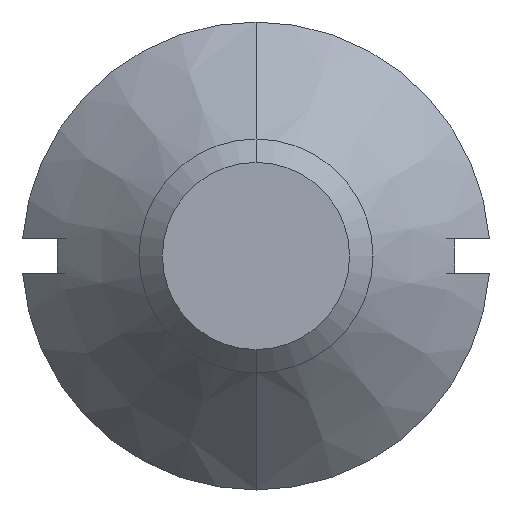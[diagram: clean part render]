
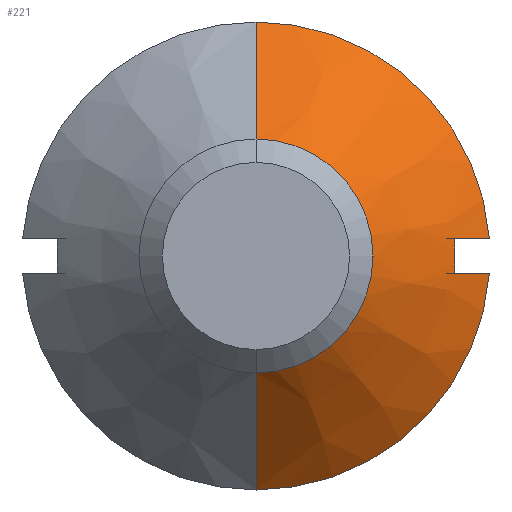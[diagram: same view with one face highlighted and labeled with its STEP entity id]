
A CAD part, front view. The second image highlights one B-rep face of the part: STEP entity #221.
In plain terms, the highlighted conical face has half-angle 45 degrees and reference radius 2 mm.
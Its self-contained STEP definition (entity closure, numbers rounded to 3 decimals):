
#4 = VERTEX_POINT ( 'NONE', #268 ) ;
#6 = VERTEX_POINT ( 'NONE', #261 ) ;
#8 = VERTEX_POINT ( 'NONE', #256 ) ;
#14 = VERTEX_POINT ( 'NONE', #255 ) ;
#18 = ORIENTED_EDGE ( 'NONE', *, *, #180, .T. ) ;
#31 = VERTEX_POINT ( 'NONE', #265 ) ;
#33 = VERTEX_POINT ( 'NONE', #245 ) ;
#34 = VERTEX_POINT ( 'NONE', #271 ) ;
#35 = VERTEX_POINT ( 'NONE', #247 ) ;
#37 = ORIENTED_EDGE ( 'NONE', *, *, #162, .T. ) ;
#46 = ORIENTED_EDGE ( 'NONE', *, *, #175, .F. ) ;
#52 = ORIENTED_EDGE ( 'NONE', *, *, #150, .F. ) ;
#56 = ORIENTED_EDGE ( 'NONE', *, *, #156, .T. ) ;
#60 = ORIENTED_EDGE ( 'NONE', *, *, #153, .T. ) ;
#71 = ORIENTED_EDGE ( 'NONE', *, *, #189, .T. ) ;
#73 = EDGE_LOOP ( 'NONE', ( #76, #18, #37, #71, #52, #56, #60, #46 ) ) ;
#76 = ORIENTED_EDGE ( 'NONE', *, *, #149, .F. ) ;
#87 = FACE_OUTER_BOUND ( 'NONE', #73, .T. ) ;
#88 = LINE ( 'NONE', #303, #98 ) ;
#95 = LINE ( 'NONE', #273, #122 ) ;
#98 = VECTOR ( 'NONE', #308, 1000. ) ;
#110 = CIRCLE ( 'NONE', #166, 1. ) ;
#116 = CIRCLE ( 'NONE', #178, 1.7 ) ;
#118 = CIRCLE ( 'NONE', #168, 2. ) ;
#122 = VECTOR ( 'NONE', #312, 1000. ) ;
#130 = CONICAL_SURFACE ( 'NONE', #195, 2., 0.785 ) ;
#133 = CIRCLE ( 'NONE', #159, 2. ) ;
#141 = B_SPLINE_CURVE_WITH_KNOTS ( 'NONE', 3,
 ( #226, #241, #231, #243 ),
 .UNSPECIFIED., .F., .F.,
 ( 4, 4 ),
 ( 0.008, 0.009 ),
 .UNSPECIFIED. ) ;
#147 = B_SPLINE_CURVE_WITH_KNOTS ( 'NONE', 3,
 ( #306, #287, #309, #276 ),
 .UNSPECIFIED., .F., .F.,
 ( 4, 4 ),
 ( 0.003, 0.004 ),
 .UNSPECIFIED. ) ;
#149 = EDGE_CURVE ( 'NONE', #6, #14, #110, .T. ) ;
#150 = EDGE_CURVE ( 'NONE', #8, #4, #116, .T. ) ;
#153 = EDGE_CURVE ( 'NONE', #33, #35, #133, .T. ) ;
#156 = EDGE_CURVE ( 'NONE', #8, #33, #141, .T. ) ;
#159 = AXIS2_PLACEMENT_3D ( 'NONE', #238, #239, #240 ) ;
#162 = EDGE_CURVE ( 'NONE', #31, #34, #118, .T. ) ;
#166 = AXIS2_PLACEMENT_3D ( 'NONE', #252, #260, #232 ) ;
#168 = AXIS2_PLACEMENT_3D ( 'NONE', #296, #301, #302 ) ;
#175 = EDGE_CURVE ( 'NONE', #14, #35, #88, .T. ) ;
#178 = AXIS2_PLACEMENT_3D ( 'NONE', #234, #253, #227 ) ;
#180 = EDGE_CURVE ( 'NONE', #6, #31, #95, .T. ) ;
#189 = EDGE_CURVE ( 'NONE', #34, #4, #147, .T. ) ;
#195 = AXIS2_PLACEMENT_3D ( 'NONE', #329, #345, #348 ) ;
#221 = ADVANCED_FACE ( 'NONE', ( #87 ), #130, .T. ) ;
#226 = CARTESIAN_POINT ( 'NONE',  ( 1.693, 15.7, 0.15 ) ) ;
#227 = DIRECTION ( 'NONE',  ( 0., 0., 1. ) ) ;
#231 = CARTESIAN_POINT ( 'NONE',  ( 1.894, 15.9, 0.15 ) ) ;
#232 = DIRECTION ( 'NONE',  ( 0., 0., -1. ) ) ;
#234 = CARTESIAN_POINT ( 'NONE',  ( 0., 15.7, 0. ) ) ;
#238 = CARTESIAN_POINT ( 'NONE',  ( 0., 16., 0. ) ) ;
#239 = DIRECTION ( 'NONE',  ( 0., -1., 0. ) ) ;
#240 = DIRECTION ( 'NONE',  ( 0., 0., -1. ) ) ;
#241 = CARTESIAN_POINT ( 'NONE',  ( 1.794, 15.8, 0.15 ) ) ;
#243 = CARTESIAN_POINT ( 'NONE',  ( 1.994, 16., 0.15 ) ) ;
#245 = CARTESIAN_POINT ( 'NONE',  ( 1.994, 16., 0.15 ) ) ;
#247 = CARTESIAN_POINT ( 'NONE',  ( 0., 16., 2. ) ) ;
#252 = CARTESIAN_POINT ( 'NONE',  ( 0., 15., 0. ) ) ;
#253 = DIRECTION ( 'NONE',  ( 0., 1., 0. ) ) ;
#255 = CARTESIAN_POINT ( 'NONE',  ( 0., 15., 1. ) ) ;
#256 = CARTESIAN_POINT ( 'NONE',  ( 1.693, 15.7, 0.15 ) ) ;
#260 = DIRECTION ( 'NONE',  ( 0., -1., 0. ) ) ;
#261 = CARTESIAN_POINT ( 'NONE',  ( 0., 15., -1. ) ) ;
#265 = CARTESIAN_POINT ( 'NONE',  ( 0., 16., -2. ) ) ;
#268 = CARTESIAN_POINT ( 'NONE',  ( 1.693, 15.7, -0.15 ) ) ;
#271 = CARTESIAN_POINT ( 'NONE',  ( 1.994, 16., -0.15 ) ) ;
#273 = CARTESIAN_POINT ( 'NONE',  ( 0., 16., -2. ) ) ;
#276 = CARTESIAN_POINT ( 'NONE',  ( 1.693, 15.7, -0.15 ) ) ;
#287 = CARTESIAN_POINT ( 'NONE',  ( 1.894, 15.9, -0.15 ) ) ;
#296 = CARTESIAN_POINT ( 'NONE',  ( 0., 16., 0. ) ) ;
#301 = DIRECTION ( 'NONE',  ( 0., -1., 0. ) ) ;
#302 = DIRECTION ( 'NONE',  ( 0., 0., -1. ) ) ;
#303 = CARTESIAN_POINT ( 'NONE',  ( 0., 16., 2. ) ) ;
#306 = CARTESIAN_POINT ( 'NONE',  ( 1.994, 16., -0.15 ) ) ;
#308 = DIRECTION ( 'NONE',  ( 0., 0.707, 0.707 ) ) ;
#309 = CARTESIAN_POINT ( 'NONE',  ( 1.794, 15.8, -0.15 ) ) ;
#312 = DIRECTION ( 'NONE',  ( 0., 0.707, -0.707 ) ) ;
#329 = CARTESIAN_POINT ( 'NONE',  ( 0., 16., 0. ) ) ;
#345 = DIRECTION ( 'NONE',  ( 0., 1., 0. ) ) ;
#348 = DIRECTION ( 'NONE',  ( 0., 0., 1. ) ) ;
